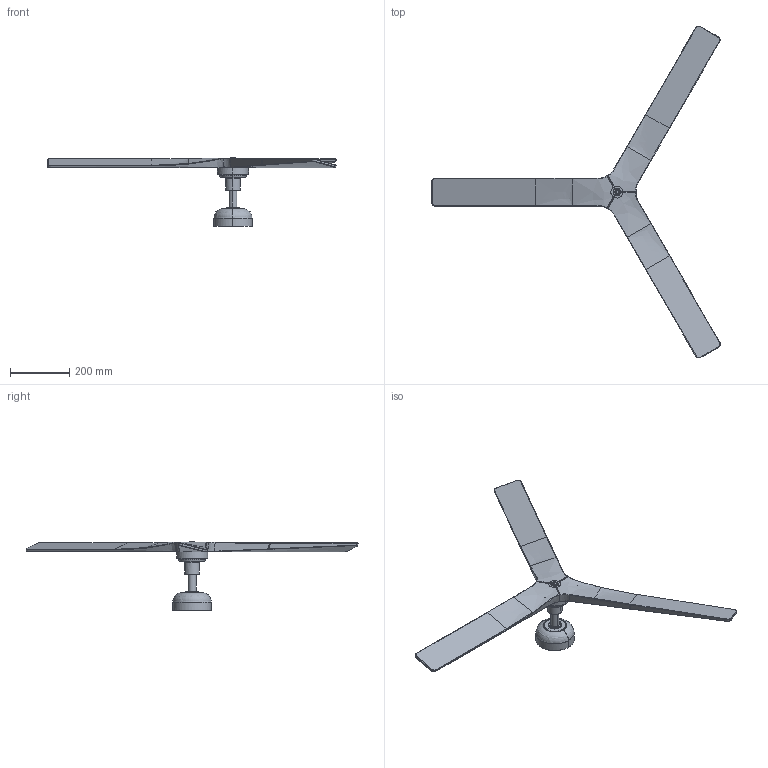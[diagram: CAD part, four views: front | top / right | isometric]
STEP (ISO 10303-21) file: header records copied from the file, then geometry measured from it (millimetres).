
FILE_DESCRIPTION(/* description */ (''),/* implementation_level */ '2;1');
FILE_NAME(/* name */ '34277.step',/* time_stamp */ '2024-04-30T12:32:50+02:00',/* author */ ('RenataManzini'),/* organization */ (''),/* preprocessor_version */ 'ST-DEVELOPER v20',/* originating_system */ 'AutoCAD Mechanical',/* authorisation */ '');
FILE_SCHEMA (('AUTOMOTIVE_DESIGN { 1 0 10303 214 3 1 1 }'));
Length unit declared in the file: millimetre
Products named in the file (1): Product
Bounding box: 974 x 1120.57 x 231.64 mm (x, y, z)
Volume: 3122175.3 mm3; surface area: 562240.8 mm2
Topology: 7 solids, 7 shells, 395 faces, 994 edges, 623 vertices
Faces by surface type: plane 144, cylinder 116, bspline 98, torus 28, cone 9
Entity records: 30110 total; most frequent: CARTESIAN_POINT 21316, ORIENTED_EDGE 1982, DIRECTION 1560, EDGE_CURVE 991, VERTEX_POINT 618, AXIS2_PLACEMENT_3D 574, EDGE_LOOP 433, LINE 412
